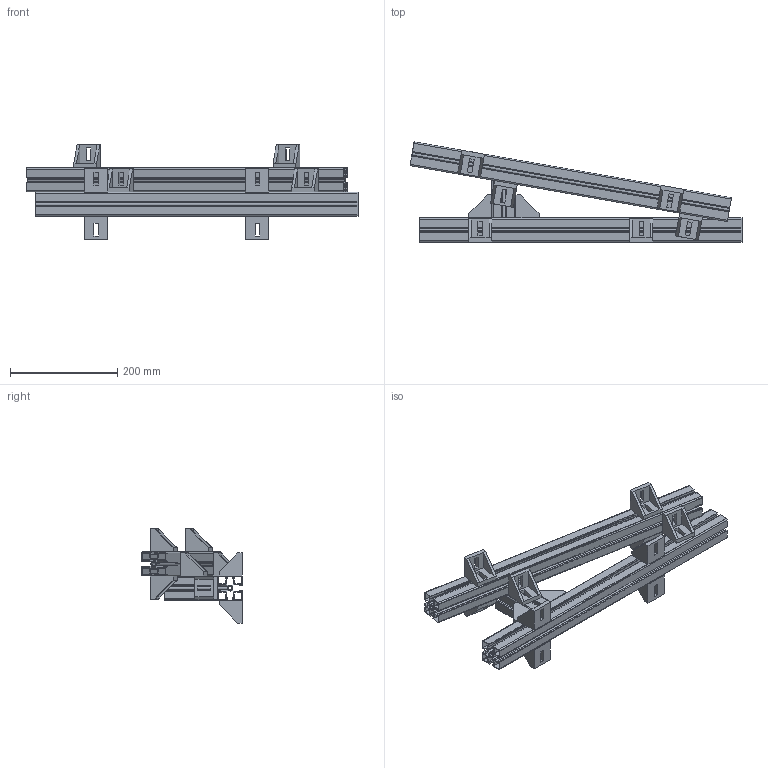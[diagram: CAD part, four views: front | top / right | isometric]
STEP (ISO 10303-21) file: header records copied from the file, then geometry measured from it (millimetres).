
FILE_DESCRIPTION (( 'STEP AP203' ), '1' );
FILE_NAME ('084.106.306.STEP', '2015-05-20T10:29:10', ( '' ), ( '' ), 'SwSTEP 2.0', 'SolidWorks 2012', '' );
FILE_SCHEMA (( 'CONFIG_CONTROL_DESIGN' ));
Length unit declared in the file: millimetre
Products named in the file (1): 084.106.306
Bounding box: 618.41 x 186.66 x 176 mm (x, y, z)
Volume: 911198.5 mm3; surface area: 933790.5 mm2
Topology: 15 solids, 15 shells, 683 faces, 1902 edges, 1248 vertices
Faces by surface type: plane 481, cylinder 202
Entity records: 21970 total; most frequent: CARTESIAN_POINT 3973, ORIENTED_EDGE 3804, DIRECTION 3612, EDGE_CURVE 1902, LINE 1502, VECTOR 1502, VERTEX_POINT 1248, AXIS2_PLACEMENT_3D 1055
